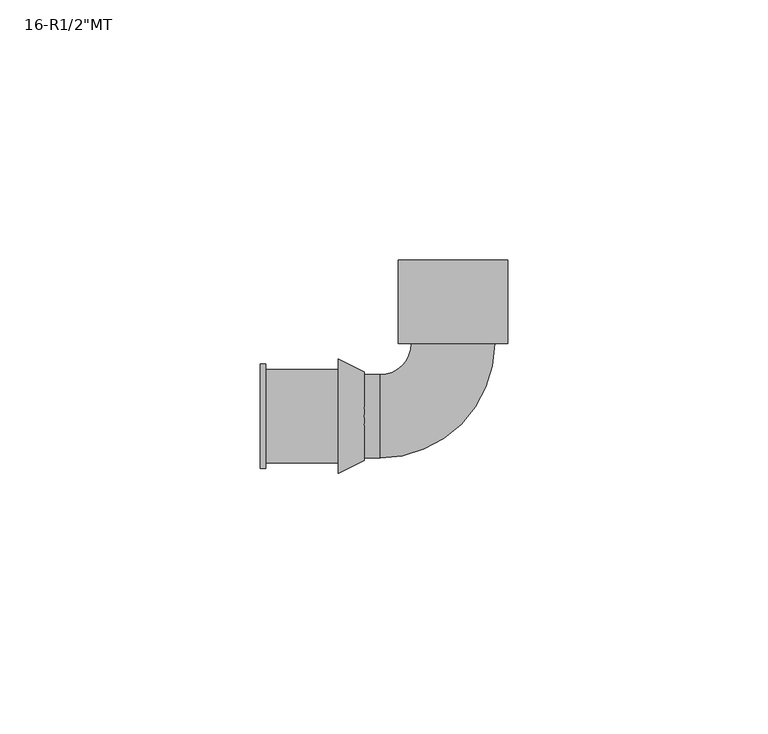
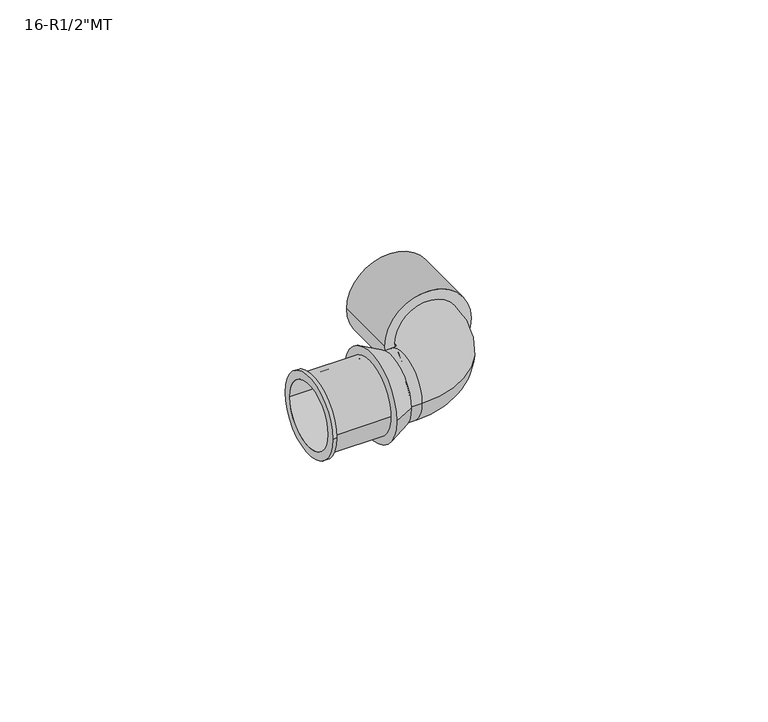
"""IFC4 building model written with IfcOpenShell, lengths in millimetres: pipe fitting geometry."""

import ifcopenshell
import ifcopenshell.guid

model = None  # the IFC model being written
_history = None  # IfcOwnerHistory: only IFC2X3 demands one
_inside = {}  # id of a spatial element -> (the spatial element, [elements in it])
_under = {}  # id of a project, library or spatial element -> (it, [spatial elements below it])
_declared = {}  # id of a project -> (the project, [libraries it declares])
_typed = {}  # id of a type object -> (the type object, [elements of that type])
_made_of = {}  # id of a material, layer set ... -> (it, [elements and type objects made of it])


def new_model(schema):
    """Start an empty IFC model of exactly this schema.

    Asked for "IFC4X3", IfcOpenShell would pick the latest addendum, in which some entities
    have other attributes; the version numbers below select the first issue.
    IFC2X3 requires an IfcOwnerHistory on every rooted entity: one is made here for all.
    """
    global model, _history
    if schema == "IFC4X3":
        model = ifcopenshell.file(schema_version=(4, 3, 0, 0))
    else:
        model = ifcopenshell.file(schema=schema)
    _inside.clear()
    _under.clear()
    _declared.clear()
    _typed.clear()
    _made_of.clear()
    _history = None
    if model.schema == "IFC2X3":
        org = make("IfcOrganization", Name="unknown")
        user = make(
            "IfcPersonAndOrganization",
            ThePerson=make("IfcPerson", FamilyName="unknown"),
            TheOrganization=org,
        )
        app = make(
            "IfcApplication",
            ApplicationDeveloper=org,
            Version="unknown",
            ApplicationFullName="unknown",
            ApplicationIdentifier="unknown",
        )
        _history = make(
            "IfcOwnerHistory",
            OwningUser=user,
            OwningApplication=app,
            ChangeAction="ADDED",
            CreationDate=0,
        )
    return model


def make(cls, **values):
    """One entity of the class cls with the attributes given. An attribute that is None is left unset."""
    return model.create_entity(
        cls, **{name: value for name, value in values.items() if value is not None}
    )


def rooted(cls, **values):
    """An entity with a GlobalId (a new one), such as an element, a storey or a relation."""
    return make(cls, GlobalId=ifcopenshell.guid.new(), OwnerHistory=_history, **values)


def si_unit(unit_type, name, prefix=None):
    """IfcSIUnit, for example si_unit("LENGTHUNIT", "METRE", prefix="MILLI")."""
    return make("IfcSIUnit", UnitType=unit_type, Prefix=prefix, Name=name)


def assignment(units):
    """IfcUnitAssignment: the units of a project."""
    return None if units is None else make("IfcUnitAssignment", Units=units)


def point(xyz):
    """IfcCartesianPoint."""
    return None if xyz is None else make("IfcCartesianPoint", Coordinates=xyz)


def direction(xyz):
    """IfcDirection."""
    return None if xyz is None else make("IfcDirection", DirectionRatios=xyz)


def frame(location, z_axis=None, x_axis=None):
    """IfcAxis2Placement3D, a coordinate frame: its origin and axes. An axis left out is left unset."""
    return make(
        "IfcAxis2Placement3D",
        Location=point(location),
        Axis=direction(z_axis),
        RefDirection=direction(x_axis),
    )


def frame_2d(location, x_axis=None):
    """IfcAxis2Placement2D, a coordinate frame in the plane: its origin and x axis."""
    return make(
        "IfcAxis2Placement2D", Location=point(location), RefDirection=direction(x_axis)
    )


def origin():
    """The frame at (0, 0, 0) with its axes left unset."""
    return frame((0.0, 0.0, 0.0))


def origin_2d():
    """The frame at (0, 0) in the plane with its x axis left unset."""
    return frame_2d((0.0, 0.0))


def place(relative_to, where):
    """IfcLocalPlacement: puts the frame where relative to a parent placement (None: the world)."""
    return make(
        "IfcLocalPlacement", PlacementRelTo=relative_to, RelativePlacement=where
    )


def context(
    kind, dimensions, precision=None, world=None, true_north=None, identifier=None
):
    """IfcGeometricRepresentationContext, for example the 3D "Model" context."""
    return make(
        "IfcGeometricRepresentationContext",
        ContextIdentifier=identifier,
        ContextType=kind,
        CoordinateSpaceDimension=dimensions,
        Precision=precision,
        WorldCoordinateSystem=world,
        TrueNorth=true_north,
    )


def project(units=None, contexts=None):
    """IfcProject with its units and contexts."""
    return rooted(
        "IfcProject",
        Name="project",
        RepresentationContexts=contexts,
        UnitsInContext=assignment(units),
    )


def spatial(cls, under=None, at=None, **own):
    """A site, building, storey or space (cls), placed at a placement, below another one or the project."""
    s = rooted(cls, ObjectPlacement=at, **own)
    if under is not None:
        _under.setdefault(under.id(), (under, []))[1].append(s)
    return s


def polyline(points):
    """IfcPolyline through the points."""
    return make("IfcPolyline", Points=[point(p) for p in points])


def circle_curve(where, radius):
    """IfcCircle in the frame where."""
    return make("IfcCircle", Position=where, Radius=radius)


def ellipse_curve(where, semi_axis1, semi_axis2):
    """IfcEllipse in the frame where."""
    return make(
        "IfcEllipse", Position=where, SemiAxis1=semi_axis1, SemiAxis2=semi_axis2
    )


def trimmed(basis, trim1, trim2, sense, master):
    """IfcTrimmedCurve: the piece of a basis curve between two trims."""
    return make(
        "IfcTrimmedCurve",
        BasisCurve=basis,
        Trim1=trim1,
        Trim2=trim2,
        SenseAgreement=sense,
        MasterRepresentation=master,
    )


def segment(curve, same_sense, transition):
    """IfcCompositeCurveSegment."""
    return make(
        "IfcCompositeCurveSegment",
        Transition=transition,
        SameSense=same_sense,
        ParentCurve=curve,
    )


def composite_curve(segments, self_intersect=None):
    """IfcCompositeCurve: segments joined end to end."""
    return make("IfcCompositeCurve", Segments=segments, SelfIntersect=self_intersect)


def outline(outer, holes=None, kind="AREA"):
    """IfcArbitraryClosedProfileDef: a profile drawn as a closed curve; with holes, ...WithVoids."""
    if holes is None:
        return make("IfcArbitraryClosedProfileDef", ProfileType=kind, OuterCurve=outer)
    return make(
        "IfcArbitraryProfileDefWithVoids",
        ProfileType=kind,
        OuterCurve=outer,
        InnerCurves=holes,
    )


def extrude(swept, where, along, depth):
    """IfcExtrudedAreaSolid: the profile swept, set in the frame where, extruded along a direction by depth."""
    return make(
        "IfcExtrudedAreaSolid",
        SweptArea=swept,
        Position=where,
        ExtrudedDirection=direction(along),
        Depth=depth,
    )


def shape(context_of_items, identifier, shape_type, items):
    """IfcShapeRepresentation: the items that make up one representation, for example the "Body"."""
    return make(
        "IfcShapeRepresentation",
        ContextOfItems=context_of_items,
        RepresentationIdentifier=identifier,
        RepresentationType=shape_type,
        Items=items,
    )


def source(mapping_origin, context_of_items, identifier, shape_type, items):
    """IfcRepresentationMap: a shape defined once, which mapped items show again and again."""
    return make(
        "IfcRepresentationMap",
        MappingOrigin=mapping_origin,
        MappedRepresentation=shape(context_of_items, identifier, shape_type, items),
    )


def transform(
    local_origin,
    x_axis=None,
    y_axis=None,
    z_axis=None,
    scale=None,
    scale2=None,
    scale3=None,
    uniform=True,
):
    """IfcCartesianTransformationOperator3D, or its non-uniform kind. x_axis, y_axis, z_axis: its Axis1, 2, 3."""
    if uniform:
        return make(
            "IfcCartesianTransformationOperator3D",
            Axis1=direction(x_axis),
            Axis2=direction(y_axis),
            LocalOrigin=point(local_origin),
            Scale=scale,
            Axis3=direction(z_axis),
        )
    return make(
        "IfcCartesianTransformationOperator3DnonUniform",
        Axis1=direction(x_axis),
        Axis2=direction(y_axis),
        LocalOrigin=point(local_origin),
        Scale=scale,
        Axis3=direction(z_axis),
        Scale2=scale2,
        Scale3=scale3,
    )


def mapped(mapping_source, mapping_target):
    """IfcMappedItem: shows the shape of a source again, moved by a transform."""
    return make(
        "IfcMappedItem", MappingSource=mapping_source, MappingTarget=mapping_target
    )


def made_of(thing, what):
    """Note that an element or type object is made of a material, layer set ...; save() writes the relation."""
    if what is not None:
        _made_of.setdefault(what.id(), (what, []))[1].append(thing)
    return thing


def element(
    cls,
    number,
    at=None,
    inside=None,
    cuts=None,
    type_object=None,
    material=None,
    context=None,
    identifier="Body",
    shape_type=None,
    held_by="IfcProductDefinitionShape",
    body=None,
    shapes=None,
    **own,
):
    """One element of the class cls, such as IfcWall. Its Tag is "e" and its number.

    at: its placement. inside: the storey or other place that contains it. cuts: it is an
    opening in that element (IfcRelVoidsElement). A single representation is given by context,
    identifier, shape_type and body (its items); several are given by shapes. held_by: the class
    of the entity that holds the representations. save() writes the other relations.
    """
    e = rooted(cls, Tag="e%d" % number, ObjectPlacement=at, **own)
    if body is not None:
        shapes = [shape(context, identifier, shape_type, body)]
    if shapes is not None:
        e.Representation = make(held_by, Representations=shapes)
    if inside is not None:
        _inside.setdefault(inside.id(), (inside, []))[1].append(e)
    if cuts is not None:
        rooted(
            "IfcRelVoidsElement", RelatingBuildingElement=cuts, RelatedOpeningElement=e
        )
    if type_object is not None:
        _typed.setdefault(type_object.id(), (type_object, []))[1].append(e)
    return made_of(e, material)


def aggregate(whole, parts):
    """IfcRelAggregates: a whole, such as a stair, and the parts it consists of."""
    return rooted("IfcRelAggregates", RelatingObject=whole, RelatedObjects=parts)


def save(model, path):
    """Write the relations noted so far, then the file.

    IfcRelAggregates (storeys below a building ...), IfcRelContainedInSpatialStructure (elements
    in a storey), IfcRelDefinesByType, IfcRelAssociatesMaterial and IfcRelDeclares: one each for
    every whole, place, type object, material and project.
    """
    for whole, parts in _under.values():
        aggregate(whole, parts)
    for where, things in _inside.values():
        rooted(
            "IfcRelContainedInSpatialStructure",
            RelatedElements=things,
            RelatingStructure=where,
        )
    for kind, things in _typed.values():
        rooted("IfcRelDefinesByType", RelatedObjects=things, RelatingType=kind)
    for what, things in _made_of.values():
        rooted("IfcRelAssociatesMaterial", RelatedObjects=things, RelatingMaterial=what)
    for by, libraries in _declared.values():
        rooted("IfcRelDeclares", RelatingContext=by, RelatedDefinitions=libraries)
    model.write(path)


def plane_surface(at):
    """IfcPlane: the flat surface through the origin of the frame at, square to its z axis."""
    return make("IfcPlane", Position=at)


def cylinder_surface(at, radius):
    """IfcCylindricalSurface: all points at the distance radius from the z axis of the frame at."""
    return make("IfcCylindricalSurface", Position=at, Radius=radius)


def revolved_surface(curve, axis_point, axis_direction):
    """IfcSurfaceOfRevolution: the curve turned about the line through axis_point along axis_direction."""
    return make(
        "IfcSurfaceOfRevolution",
        SweptCurve=make("IfcArbitraryOpenProfileDef", ProfileType="CURVE", Curve=curve),
        AxisPosition=make("IfcAxis1Placement", Location=point(axis_point), Axis=direction(axis_direction)),
    )


def advanced_brep(points, edges, surfaces, faces):
    """IfcAdvancedBrep: a solid bounded by faces that lie on surfaces and meet in shared edges.

    An edge is (start, end): straight between two places in points (the first is 0);
    or (start, end, curve); or (start, end, curve, False) where it runs against its curve.
    A face is (place in surfaces, loops), or (place, loops, False) where it looks against
    its surface's normal. A loop lists edges by number (the first is 1), with a minus sign
    where the edge is run from its end to its start. The first loop is the outer one.
    """
    corners = [point(p) for p in points]
    vertices = [make("IfcVertexPoint", VertexGeometry=c) for c in corners]
    made = []
    for start, end, *more in edges:
        made.append(
            make(
                "IfcEdgeCurve",
                EdgeStart=vertices[start],
                EdgeEnd=vertices[end],
                EdgeGeometry=more[0] if more else make("IfcPolyline", Points=[corners[start], corners[end]]),
                SameSense=more[1] if len(more) > 1 else True,
            )
        )
    hull = []
    for where, loops, *sense in faces:
        bounds = []
        for j, loop in enumerate(loops):
            ring = [make("IfcOrientedEdge", EdgeElement=made[abs(k) - 1], Orientation=k > 0) for k in loop]
            bounds.append(
                make(
                    "IfcFaceOuterBound" if j == 0 else "IfcFaceBound",
                    Bound=make("IfcEdgeLoop", EdgeList=ring),
                    Orientation=True,
                )
            )
        hull.append(make("IfcAdvancedFace", Bounds=bounds, FaceSurface=surfaces[where], SameSense=sense[0] if sense else True))
    return make("IfcAdvancedBrep", Outer=make("IfcClosedShell", CfsFaces=hull))


def pipe_fitting_06f68891(model_context):
    return source(origin(), model_context, "Body", "SolidModel", [
        advanced_brep(
        [(8.0, 14.0, 0.0), (-8.0, 14.0, 0.0), (-14.0, 8.0, 0.0), (-14.0, -8.0, 0.0), (-17.0, -8.0, 0.0), (-17.0, 8.0, 0.0)],
        [
            (0, 1, circle_curve(frame((0.0, 14.0, 0.0), z_axis=(0.0, 1.0, 0.0), x_axis=(-1.0, 0.0, 0.0)), 8.0)),
            (1, 0, circle_curve(frame((0.0, 14.0, 0.0), z_axis=(0.0, 1.0, 0.0), x_axis=(-1.0, 0.0, 0.0)), 8.0)),
            (1, 2, circle_curve(frame((-14.0, 14.0, 0.0), z_axis=(0.0, 0.0, -1.0), x_axis=(0.0, -1.0, 0.0)), 6.0)),
            (2, 3, circle_curve(frame((-14.0, 0.0, 0.0), z_axis=(1.0, 0.0, 0.0), x_axis=(0.0, 1.0, 0.0)), 8.0)),
            (3, 0, circle_curve(frame((-14.0, 14.0, 0.0), z_axis=(0.0, 0.0, 1.0), x_axis=(0.0, -1.0, 0.0)), 22.0)),
            (3, 2, circle_curve(frame((-14.0, 0.0, 0.0), z_axis=(1.0, 0.0, 0.0), x_axis=(0.0, 1.0, 0.0)), 8.0)),
            (4, 5, circle_curve(frame((-17.0, 0.0, 0.0), z_axis=(-1.0, 0.0, 0.0), x_axis=(0.0, 1.0, 0.0)), 8.0)),
            (5, 4, circle_curve(frame((-17.0, 0.0, 0.0), z_axis=(-1.0, 0.0, 0.0), x_axis=(0.0, 1.0, 0.0)), 8.0)),
            (4, 3),
            (2, 5),
        ],
        [
            plane_surface(frame((0.0, 14.0, 0.0), z_axis=(0.0, 1.0, 0.0), x_axis=(0.0, 0.0, 1.0))),
            revolved_surface(trimmed(ellipse_curve(frame((-14.0, 0.0, 0.0), z_axis=(-1.0, 0.0, 0.0), x_axis=(0.0, 1.0, 0.0)), 8.0, 8.0), [point((-14.0, -8.0, 0.0))], [point((-14.0, 8.0, 0.0))], True, "CARTESIAN"), (-14.0, 14.0, 0.0), (0.0, 0.0, 1.0)),
            revolved_surface(trimmed(ellipse_curve(frame((-14.0, 0.0, 0.0), z_axis=(-1.0, 0.0, 0.0), x_axis=(0.0, 1.0, 0.0)), 8.0, 8.0), [point((-14.0, 8.0, 0.0))], [point((-14.0, -8.0, 0.0))], True, "CARTESIAN"), (-14.0, 14.0, 0.0), (0.0, 0.0, 1.0)),
            plane_surface(frame((-17.0, 0.0, 0.0), z_axis=(-1.0, 0.0, 0.0), x_axis=(0.0, 0.0, 1.0))),
            cylinder_surface(frame((-17.0, 0.0, 0.0), z_axis=(-1.0, 0.0, 0.0), x_axis=(0.0, 1.0, 0.0)), 8.0),
        ],
        [
            (0, [[1, 2]]),
            (1, [[-2, 3, 4, 5]]),
            (2, [[-1, -5, 6, -3]]),
            (3, [[7, 8]]),
            (4, [[-7, 9, -4, 10]]),
            (4, [[-8, -10, -6, -9]]),
        ],
    ),
        extrude(outline(composite_curve([segment(trimmed(circle_curve(origin_2d(), 10.5), [point((0.0, -10.5))], [point((0.0, 10.5))], False, "CARTESIAN"), True, "CONTINUOUS"), segment(trimmed(circle_curve(origin_2d(), 10.5), [point((0.0, 10.5))], [point((0.0, -10.5))], False, "CARTESIAN"), True, "CONTINUOUS")], self_intersect=False), holes=[composite_curve([segment(trimmed(circle_curve(origin_2d(), 7.5), [point((0.0, -7.5))], [point((0.0, 7.5))], True, "CARTESIAN"), True, "CONTINUOUS"), segment(trimmed(circle_curve(origin_2d(), 7.5), [point((0.0, 7.5))], [point((0.0, -7.5))], True, "CARTESIAN"), True, "CONTINUOUS")], self_intersect=False)]), frame((0.0, 14.0, 0.0), z_axis=(0.0, 1.0, 0.0), x_axis=(0.0, 0.0, 1.0)), (0.0, 0.0, 1.0), 16.0),
        advanced_brep(
        [(-17.0, -8.5, 0.0), (-17.0, 8.5, 0.0), (-17.0, 8.0, 0.0), (-17.0, -8.0, 0.0), (-22.0, -11.0, 0.0), (-22.0, 11.0, 0.0), (-22.0, -8.0, 0.0), (-22.0, 8.0, 0.0)],
        [
            (0, 1, circle_curve(frame((-17.0, 0.0, 0.0), z_axis=(1.0, 0.0, 0.0), x_axis=(0.0, -1.0, 0.0)), 8.5)),
            (1, 0, circle_curve(frame((-17.0, 0.0, 0.0), z_axis=(1.0, 0.0, 0.0), x_axis=(0.0, 1.0, 0.0)), 8.5)),
            (2, 3, circle_curve(frame((-17.0, 0.0, 0.0), z_axis=(-1.0, 0.0, 0.0), x_axis=(0.0, 1.0, 0.0)), 8.0)),
            (3, 2, circle_curve(frame((-17.0, 0.0, 0.0), z_axis=(-1.0, 0.0, 0.0), x_axis=(0.0, 1.0, 0.0)), 8.0)),
            (4, 5, circle_curve(frame((-22.0, 0.0, 0.0), z_axis=(-1.0, 0.0, 0.0), x_axis=(0.0, 1.0, 0.0)), 11.0)),
            (5, 4, circle_curve(frame((-22.0, 0.0, 0.0), z_axis=(-1.0, 0.0, 0.0), x_axis=(0.0, -1.0, 0.0)), 11.0)),
            (6, 7, circle_curve(frame((-22.0, 0.0, 0.0), z_axis=(1.0, 0.0, 0.0), x_axis=(0.0, 1.0, 0.0)), 8.0)),
            (7, 6, circle_curve(frame((-22.0, 0.0, 0.0), z_axis=(1.0, 0.0, 0.0), x_axis=(0.0, 1.0, 0.0)), 8.0)),
            (0, 4),
            (5, 1),
            (2, 7),
            (6, 3),
        ],
        [
            plane_surface(frame((-17.0, 0.0, 0.0), z_axis=(1.0, 0.0, 0.0), x_axis=(0.0, 0.0, -1.0))),
            plane_surface(frame((-22.0, 0.0, 0.0), z_axis=(-1.0, 0.0, 0.0), x_axis=(0.0, 0.0, -1.0))),
            revolved_surface(polyline([(-17.0, -8.5, 0.0), (-22.0, -11.0, 0.0)]), (0.0, 0.0, 0.0), (-1.0, 0.0, 0.0)),
            revolved_surface(polyline([(-17.0, 8.5, 0.0), (-22.0, 11.0, 0.0)]), (0.0, 0.0, 0.0), (-1.0, 0.0, 0.0)),
            revolved_surface(polyline([(-17.0, 8.0, 0.0), (-22.0, 8.0, 0.0)]), (-22.0, 0.0, 0.0), (1.0, 0.0, 0.0)),
        ],
        [
            (0, [[1, 2], [3, 4]]),
            (1, [[5, 6], [7, 8]]),
            (2, [[-1, 9, -6, 10]]),
            (3, [[-2, -10, -5, -9]]),
            (4, [[11, -7, 12, -3]]),
            (4, [[-11, -4, -12, -8]]),
        ],
    ),
        advanced_brep(
        [(-37.0, -10.0, 0.0), (-37.0, 10.0, 0.0), (-37.0, -8.0, 0.0), (-37.0, 8.0, 0.0), (-22.0, -9.0, 0.0), (-22.0, 9.0, 0.0), (-22.0, -8.0, 0.0), (-22.0, 8.0, 0.0), (-36.0, 9.0, 0.0), (-36.0, -9.0, 0.0), (-36.0, -10.0, 0.0), (-36.0, 10.0, 0.0)],
        [
            (0, 1, circle_curve(frame((-37.0, 0.0, 0.0), z_axis=(-1.0, 0.0, 0.0), x_axis=(0.0, 1.0, 0.0)), 10.0)),
            (1, 0, circle_curve(frame((-37.0, 0.0, 0.0), z_axis=(-1.0, 0.0, 0.0), x_axis=(0.0, 1.0, 0.0)), 10.0)),
            (2, 3, circle_curve(frame((-37.0, 0.0, 0.0), z_axis=(1.0, 0.0, 0.0), x_axis=(0.0, 1.0, 0.0)), 8.0)),
            (3, 2, circle_curve(frame((-37.0, 0.0, 0.0), z_axis=(1.0, 0.0, 0.0), x_axis=(0.0, 1.0, 0.0)), 8.0)),
            (4, 5, circle_curve(frame((-22.0, 0.0, 0.0), z_axis=(1.0, 0.0, 0.0), x_axis=(0.0, 1.0, 0.0)), 9.0)),
            (5, 4, circle_curve(frame((-22.0, 0.0, 0.0), z_axis=(1.0, 0.0, 0.0), x_axis=(0.0, 1.0, 0.0)), 9.0)),
            (6, 7, circle_curve(frame((-22.0, 0.0, 0.0), z_axis=(-1.0, 0.0, 0.0), x_axis=(0.0, 1.0, 0.0)), 8.0)),
            (7, 6, circle_curve(frame((-22.0, 0.0, 0.0), z_axis=(-1.0, 0.0, 0.0), x_axis=(0.0, 1.0, 0.0)), 8.0)),
            (2, 6),
            (7, 3),
            (5, 8),
            (8, 9, circle_curve(frame((-36.0, 0.0, 0.0), z_axis=(1.0, 0.0, 0.0), x_axis=(0.0, 1.0, 0.0)), 9.0)),
            (9, 4),
            (9, 8, circle_curve(frame((-36.0, 0.0, 0.0), z_axis=(1.0, 0.0, 0.0), x_axis=(0.0, 1.0, 0.0)), 9.0)),
            (10, 11, circle_curve(frame((-36.0, 0.0, 0.0), z_axis=(1.0, 0.0, 0.0), x_axis=(0.0, 1.0, 0.0)), 10.0)),
            (11, 10, circle_curve(frame((-36.0, 0.0, 0.0), z_axis=(1.0, 0.0, 0.0), x_axis=(0.0, 1.0, 0.0)), 10.0)),
            (0, 10),
            (11, 1),
        ],
        [
            plane_surface(frame((-37.0, 0.0, 0.0), z_axis=(-1.0, 0.0, 0.0), x_axis=(0.0, 0.0, 1.0))),
            plane_surface(frame((-22.0, 0.0, 0.0), z_axis=(1.0, 0.0, 0.0), x_axis=(0.0, 0.0, 1.0))),
            revolved_surface(polyline([(-22.0, 8.0, 0.0), (-37.0, 8.0, 0.0)]), (-37.0, 0.0, 0.0), (1.0, 0.0, 0.0)),
            cylinder_surface(frame((-37.0, 0.0, 0.0), z_axis=(-1.0, 0.0, 0.0), x_axis=(0.0, 1.0, 0.0)), 9.0),
            plane_surface(frame((-36.0, 0.0, 0.0), z_axis=(1.0, 0.0, 0.0), x_axis=(0.0, 0.0, 1.0))),
            cylinder_surface(frame((-37.0, 0.0, 0.0), z_axis=(-1.0, 0.0, 0.0), x_axis=(0.0, 1.0, 0.0)), 10.0),
        ],
        [
            (0, [[1, 2], [3, 4]]),
            (1, [[5, 6], [7, 8]]),
            (2, [[-3, 9, -8, 10]]),
            (2, [[-4, -10, -7, -9]]),
            (3, [[-6, 11, 12, 13]]),
            (3, [[-5, -13, 14, -11]]),
            (4, [[15, 16], [-12, -14]]),
            (5, [[-1, 17, -16, 18]]),
            (5, [[-2, -18, -15, -17]]),
        ],
    ),
    ])


if __name__ == "__main__":
    model = new_model("IFC4")
    model_context = context("Model", 3, world=origin())
    ifc_project = project(units=[si_unit("LENGTHUNIT", "METRE", prefix="MILLI")], contexts=[model_context])
    site = spatial("IfcSite", under=ifc_project)
    building = spatial("IfcBuilding", under=site)
    placement = place(None, origin())
    pipe_fitting_shape = pipe_fitting_06f68891(model_context)
    element("IfcPipeFitting", 1, ObjectType="SuperPipe_ElbowAdapterMT_MAX_R : 16-R1/2\"MT", at=placement, inside=building, context=model_context, shape_type="MappedRepresentation", body=[
        mapped(pipe_fitting_shape, transform((0.0, 0.0, 0.0), x_axis=(1.0, 0.0, 0.0), y_axis=(0.0, 1.0, 0.0), z_axis=(0.0, 0.0, 1.0))),
    ])
    save(model, "model.ifc")
